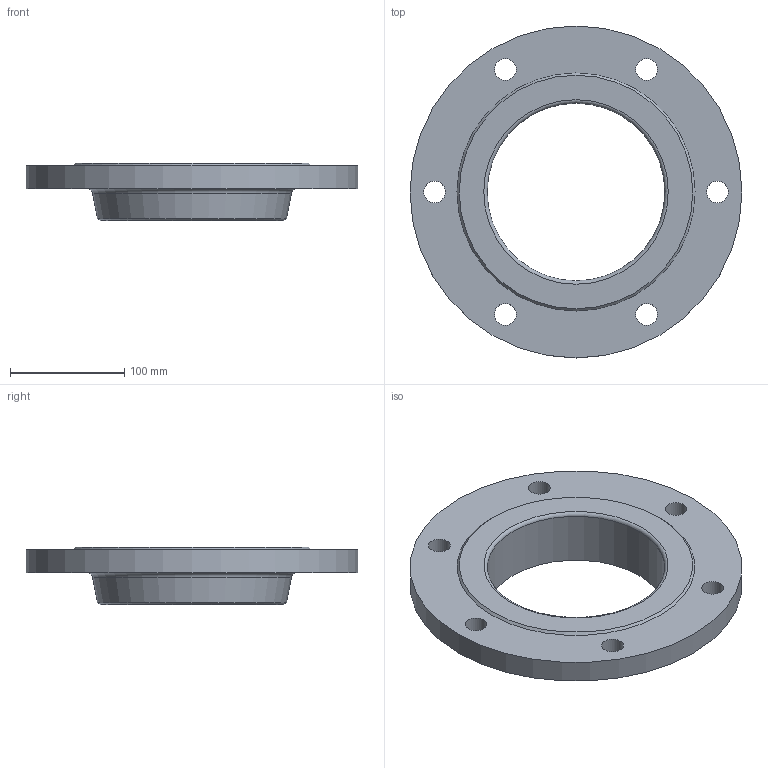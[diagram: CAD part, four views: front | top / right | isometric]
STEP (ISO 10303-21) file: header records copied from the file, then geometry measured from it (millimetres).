
FILE_DESCRIPTION(/* description */ (''),/* implementation_level */ '2;1');
FILE_NAME(/* name */ 'C:\Users\D\Documents\Inventor\HP\JIS\フランジ\水道用フランジF12\RF\ffws_rf_150.stp',/* time_stamp */ '2024-08-28T10:15:29+09:00',/* author */ ('D'),/* organization */ (''),/* preprocessor_version */ 'ST-DEVELOPER v18',/* originating_system */ 'Autodesk Inventor 2020',/* authorisation */ '');
FILE_SCHEMA (('AUTOMOTIVE_DESIGN { 1 0 10303 214 3 1 1 }'));
Length unit declared in the file: millimetre
Products named in the file (1): ffws_rf_80
Bounding box: 290 x 290 x 50 mm (x, y, z)
Volume: 1042963.9 mm3; surface area: 151747.2 mm2
Topology: 1 solids, 1 shells, 17 faces, 50 edges, 37 vertices
Faces by surface type: cylinder 8, plane 4, cone 3, torus 2
Full cylindrical faces by diameter (mm): 19 x6, 155.2 x1, 290 x1
Entity records: 680 total; most frequent: DIRECTION 125, CARTESIAN_POINT 105, ORIENTED_EDGE 100, AXIS2_PLACEMENT_3D 57, EDGE_CURVE 50, CIRCLE 39, VERTEX_POINT 37, EDGE_LOOP 33
